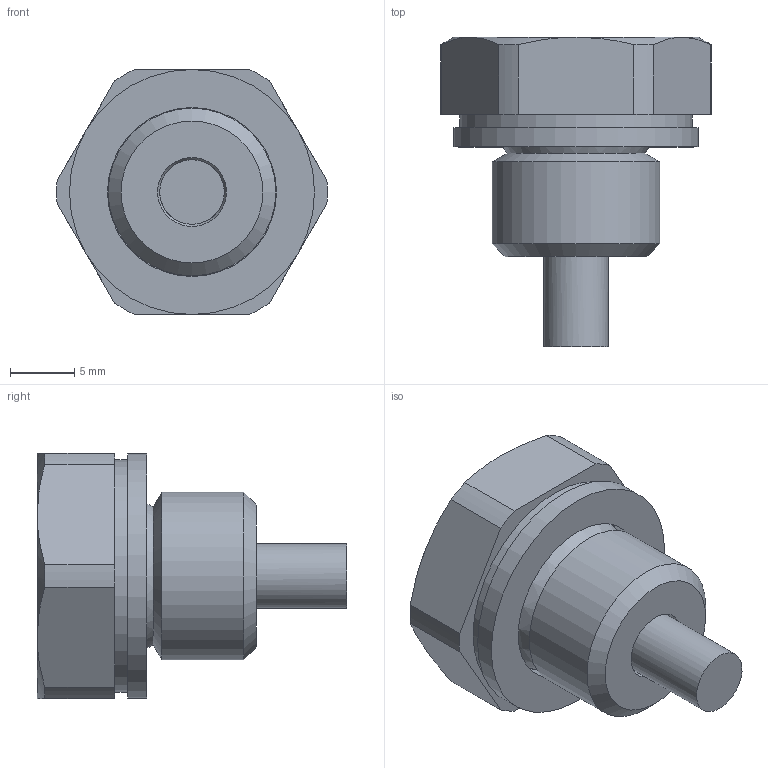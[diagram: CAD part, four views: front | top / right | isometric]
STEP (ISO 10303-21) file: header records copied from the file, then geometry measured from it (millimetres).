
FILE_DESCRIPTION(/* description */ (''),/* implementation_level */ '2;1');
FILE_NAME(/* name */ 'W:\ARCHIVIO UFFICIO TECNICO\ARTICOLI DI PRODUZIONE\COMPLESSIVI ARTICOLI STANDARD\TMA\TMA_14.stp',/* time_stamp */ '2023-09-28T08:51:39+02:00',/* author */ ('tecnico'),/* organization */ (''),/* preprocessor_version */ 'ST-DEVELOPER v18',/* originating_system */ 'Autodesk Inventor 2020',/* authorisation */ '');
FILE_SCHEMA (('AUTOMOTIVE_DESIGN { 1 0 10303 214 3 1 1 }'));
Length unit declared in the file: millimetre
Products named in the file (1): TMA_14
Bounding box: 20.99 x 24 x 19 mm (x, y, z)
Volume: 3718.9 mm3; surface area: 1786.4 mm2
Topology: 1 solids, 1 shells, 34 faces, 80 edges, 53 vertices
Faces by surface type: plane 13, cylinder 11, cone 10
Full cylindrical faces by diameter (mm): 5 x1, 13 x1, 13.1 x1, 18 x1, 19 x1
Entity records: 1087 total; most frequent: CARTESIAN_POINT 192, DIRECTION 179, ORIENTED_EDGE 160, EDGE_CURVE 80, AXIS2_PLACEMENT_3D 76, VERTEX_POINT 53, CIRCLE 41, EDGE_LOOP 39
